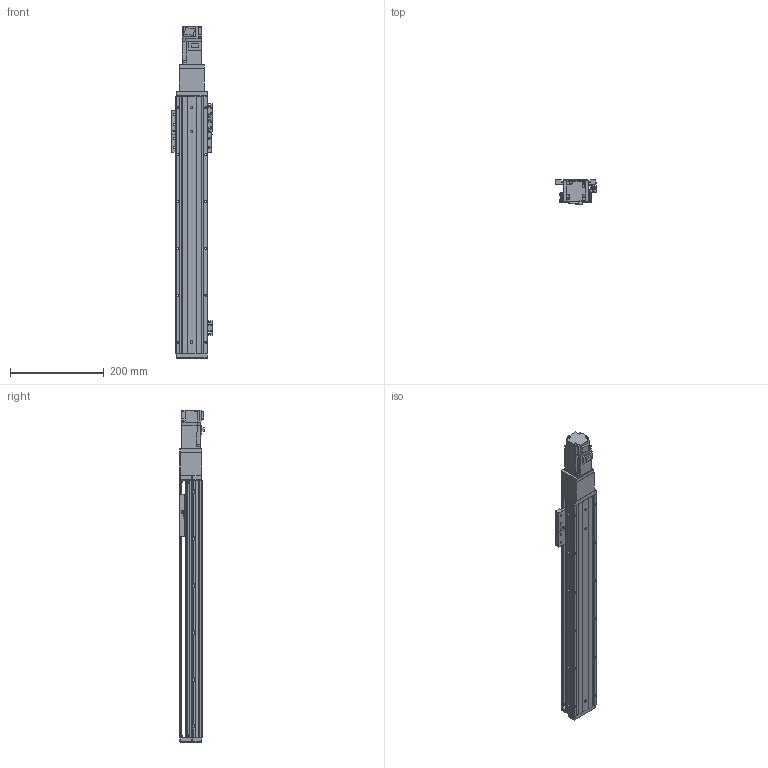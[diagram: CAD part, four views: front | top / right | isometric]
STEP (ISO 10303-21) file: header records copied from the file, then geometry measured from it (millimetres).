
FILE_DESCRIPTION (( 'STEP AP203' ), '1' );
FILE_NAME ('KTHAL60-400-BC-M10-C4L.step', '2022-03-19T08:34:59', ( '微软用户' ), ( '微软中国' ), 'SwSTEP 2.0', 'SolidWorks 2020', '' );
FILE_SCHEMA (( 'CONFIG_CONTROL_DESIGN' ));
Length unit declared in the file: millimetre
Products named in the file (18): KTHA60-004; GBT77-2000M3-3; KTHAL60-400-BC-M10-C4L; KTHA60-005; GB¨uT 70.2-M3¡Á5_M3¡Á6; GBT 70.1-M3℅6; GBT 70.3-M3℅6; CTHA60-016; EE_SX911P_R; CTHA60-006-2_CTHA60-006-2; CTHA60-017; CTHA60-027; KTHA60-001_550; CTHA60-021; CTHA60-013; KTHLA60-002; GBT 70.1-M4×16; HG-KR13（三菱）
Assembly tree (50 placements, depth 2):
  KTHAL60-400-BC-M10-C4L
    KTHA60-001_550
    KTHLA60-002
    KTHA60-004
    KTHA60-005
    GB¨uT 70.2-M3¡Á5_M3¡Á6  x5
    GBT 70.3-M3℅6  x6
    EE_SX911P_R  x3
    CTHA60-017  x3
    CTHA60-021  x2
    GBT 70.1-M4×16  x10
    GBT77-2000M3-3  x6
    GBT 70.1-M3℅6  x6
    CTHA60-016
    CTHA60-006-2_CTHA60-006-2
    CTHA60-027
    CTHA60-013
    HG-KR13（三菱）
Bounding box: 87.82 x 53.3 x 708.6 mm (x, y, z)
Volume: 1278901.8 mm3; surface area: 334719.6 mm2
Topology: 53 solids, 53 shells, 2180 faces, 5162 edges, 3165 vertices
Faces by surface type: plane 1270, cylinder 519, cone 291, torus 86, sphere 14
Entity records: 36066 total; most frequent: CARTESIAN_POINT 5914, DIRECTION 5800, ORIENTED_EDGE 5528, EDGE_CURVE 2764, LINE 1970, VECTOR 1970, AXIS2_PLACEMENT_3D 1915, VERTEX_POINT 1733
